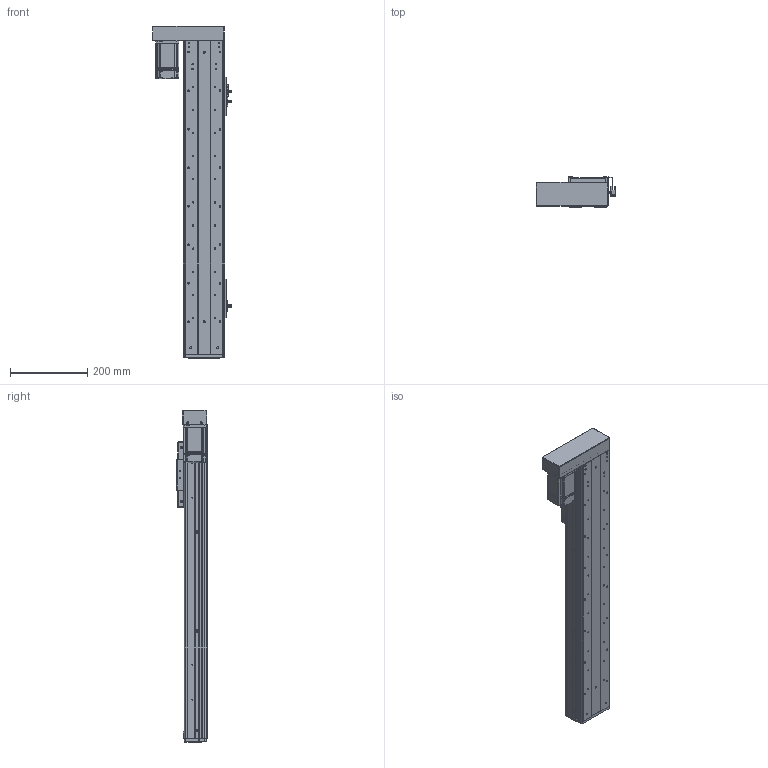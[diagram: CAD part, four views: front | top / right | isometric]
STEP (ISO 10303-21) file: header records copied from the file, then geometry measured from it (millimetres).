
FILE_DESCRIPTION (( 'STEP AP203' ), '1' );
FILE_NAME ('RY100FS-L1620-300-LK(15双轨).SLDASM_550.step', '2021-03-02T07:40:19', ( '盈信电脑' ), ( '东莞市道滘镇水果街19号' ), 'SwSTEP 2.0', 'SolidWorks 2012', '' );
FILE_SCHEMA (( 'CONFIG_CONTROL_DESIGN' ));
Products named in the file (21): 蚥薯蝶紫輸; RY100FS-L1620-300-LK(15邧寢).SLDASM_550; RY100FS-15邧寢蛌殏萇儂啣; RY100FS-15邧寢蛌殏萇儂欶; RY100FS-15邧寢蛌殏萇儂釱; 1; 滅袉蝶14-35; RY100FS-双轨螺母座(16丝杆）; 覜茼ん672; 672嫖萇羲壽假蚾釱; RY100F-詩湍揤踡輸; RY80俋离覜茼え; RY100F-綴裔啣; RY100F-詩湍揤踡謫; RY100F-詩湍幗謫粣; RY100FS-双轨铝滑块(上板）; RY100FS-300-LK15邧寢祥凄詩湍_550; RY100F-滅鳥裔啣; 棠沺沭; RY100FS-300-LK15絳寢倰第菁釱_550; RY100FS-300-LK15絳寢倰第奻裔啣_550
Assembly tree (29 placements, depth 2):
  RY100FS-L1620-300-LK(15邧寢).SLDASM_550
    RY100FS-300-LK15絳寢倰第菁釱_550
    RY100FS-300-LK15絳寢倰第奻裔啣_550  x2
    RY100FS-300-LK15邧寢祥凄詩湍_550
    RY100FS-双轨铝滑块(上板）
    RY100F-滅鳥裔啣
    棠沺沭  x2
    RY100F-詩湍幗謫粣
    RY100F-詩湍揤踡謫  x2
    RY100F-綴裔啣
    672嫖萇羲壽假蚾釱  x2
    RY80俋离覜茼え  x2
    覜茼ん672  x3
    RY100F-詩湍揤踡輸  x2
    RY100FS-双轨螺母座(16丝杆）
    RY100FS-15邧寢蛌殏萇儂釱
    滅袉蝶14-35
    1
    RY100FS-15邧寢蛌殏萇儂啣
    RY100FS-15邧寢蛌殏萇儂欶
    蚥薯蝶紫輸  x2
Bounding box: 207.3 x 78.5 x 862 mm (x, y, z)
Volume: 2228865 mm3; surface area: 939109 mm2
Topology: 29 solids, 29 shells, 2219 faces, 6004 edges, 3873 vertices
Faces by surface type: plane 1023, cylinder 995, cone 168, bspline 33
Entity records: 63151 total; most frequent: CARTESIAN_POINT 13134, DIRECTION 9987, ORIENTED_EDGE 9812, EDGE_CURVE 4906, AXIS2_PLACEMENT_3D 3530, VERTEX_POINT 3221, LINE 2927, VECTOR 2927
